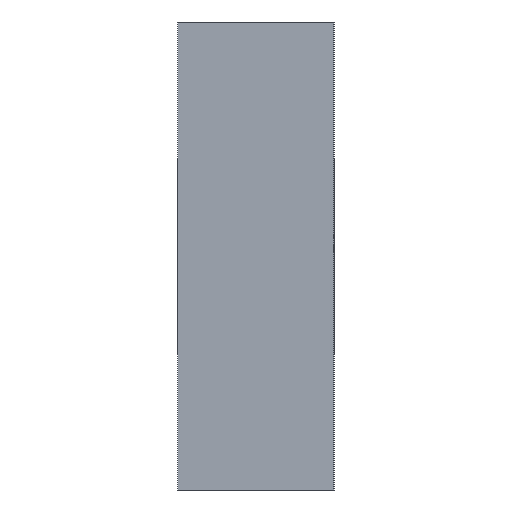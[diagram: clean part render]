
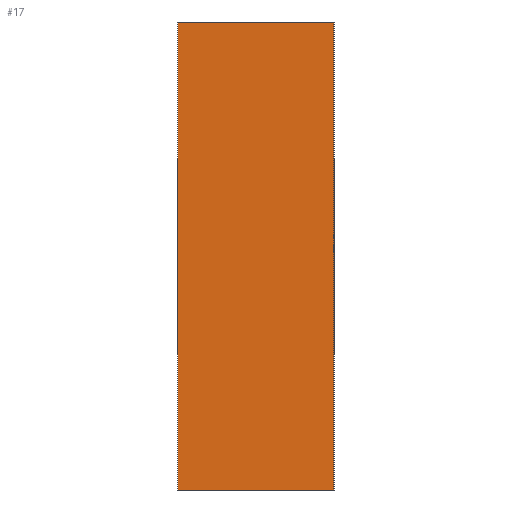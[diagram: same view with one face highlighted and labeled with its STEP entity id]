
A CAD part, left-side view. The second image highlights one B-rep face of the part: STEP entity #17.
In plain terms, the highlighted planar face has unit normal (-1, 0, 0).
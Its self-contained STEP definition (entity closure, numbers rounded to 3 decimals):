
#17 = ADVANCED_FACE('',(#18),#52,.F.);
#18 = FACE_BOUND('',#19,.F.);
#19 = EDGE_LOOP('',(#20,#30,#38,#46));
#20 = ORIENTED_EDGE('',*,*,#21,.F.);
#21 = EDGE_CURVE('',#22,#24,#26,.T.);
#22 = VERTEX_POINT('',#23);
#23 = CARTESIAN_POINT('',(0.,0.,0.));
#24 = VERTEX_POINT('',#25);
#25 = CARTESIAN_POINT('',(0.,0.,12.));
#26 = LINE('',#27,#28);
#27 = CARTESIAN_POINT('',(0.,0.,0.));
#28 = VECTOR('',#29,1.);
#29 = DIRECTION('',(0.,0.,1.));
#30 = ORIENTED_EDGE('',*,*,#31,.T.);
#31 = EDGE_CURVE('',#22,#32,#34,.T.);
#32 = VERTEX_POINT('',#33);
#33 = CARTESIAN_POINT('',(0.,4.,0.));
#34 = LINE('',#35,#36);
#35 = CARTESIAN_POINT('',(0.,0.,0.));
#36 = VECTOR('',#37,1.);
#37 = DIRECTION('',(-0.,1.,0.));
#38 = ORIENTED_EDGE('',*,*,#39,.T.);
#39 = EDGE_CURVE('',#32,#40,#42,.T.);
#40 = VERTEX_POINT('',#41);
#41 = CARTESIAN_POINT('',(0.,4.,12.));
#42 = LINE('',#43,#44);
#43 = CARTESIAN_POINT('',(0.,4.,0.));
#44 = VECTOR('',#45,1.);
#45 = DIRECTION('',(0.,0.,1.));
#46 = ORIENTED_EDGE('',*,*,#47,.F.);
#47 = EDGE_CURVE('',#24,#40,#48,.T.);
#48 = LINE('',#49,#50);
#49 = CARTESIAN_POINT('',(0.,0.,12.));
#50 = VECTOR('',#51,1.);
#51 = DIRECTION('',(-0.,1.,0.));
#52 = PLANE('',#53);
#53 = AXIS2_PLACEMENT_3D('',#54,#55,#56);
#54 = CARTESIAN_POINT('',(0.,0.,0.));
#55 = DIRECTION('',(1.,0.,-0.));
#56 = DIRECTION('',(0.,0.,1.));
